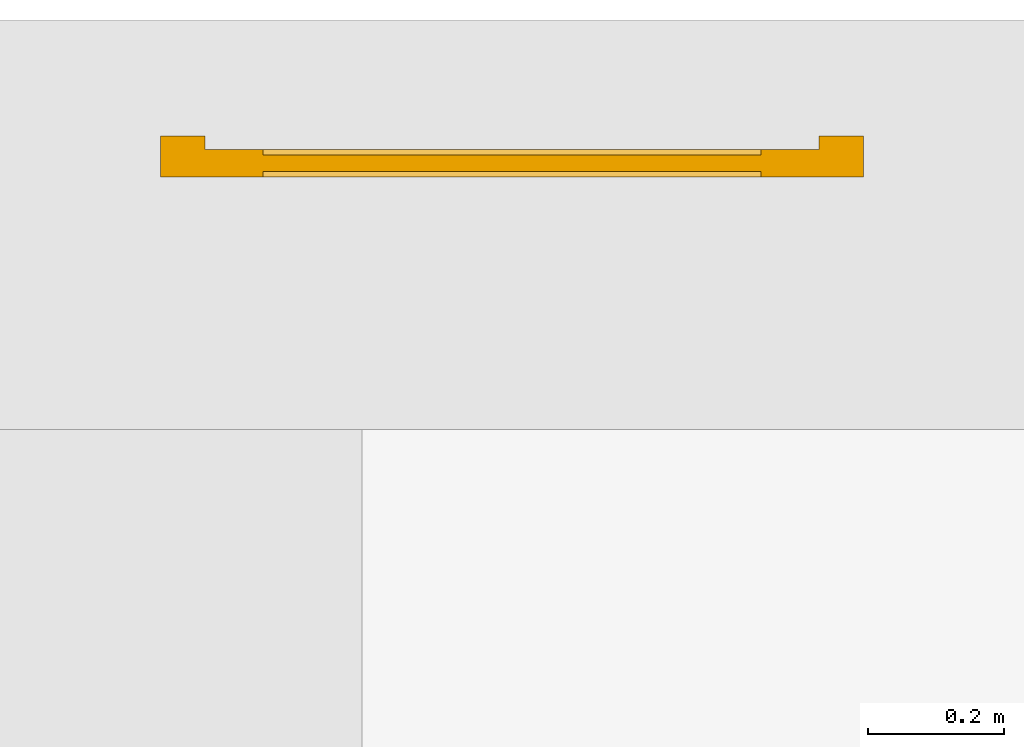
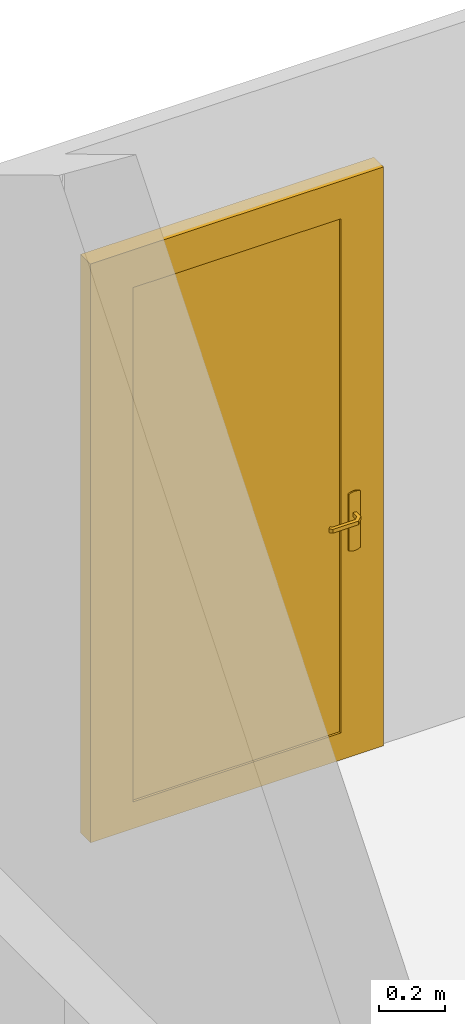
# One storey, part 2 of 6: 1 door.
"""IFC2X3 building model written with IfcOpenShell, lengths in millimetres."""

from ifc_helpers import new_model, entity, si_unit, converted_unit, direction, origin, origin_with_axes, place, context, project, spatial, faceted_brep, element, save


model = new_model("IFC2X3")

# Units and contexts
model_context = context("Model", 3, precision=1e-05, world=origin(), true_north=direction((0.0, 1.0, 0.0)))
ifc_project = project(units=[si_unit("LENGTHUNIT", "METRE", prefix="MILLI"), si_unit("AREAUNIT", "SQUARE_METRE"), si_unit("VOLUMEUNIT", "CUBIC_METRE"), converted_unit("PLANEANGLEUNIT", "DEGREE", entity("IfcPlaneAngleMeasure", 0.01745), si_unit("PLANEANGLEUNIT", "RADIAN"), dimensions=[0, 0, 0, 0, 0, 0, 0]), si_unit("SOLIDANGLEUNIT", "STERADIAN"), si_unit("MASSUNIT", "GRAM"), si_unit("TIMEUNIT", "SECOND"), si_unit("THERMODYNAMICTEMPERATUREUNIT", "DEGREE_CELSIUS"), si_unit("LUMINOUSINTENSITYUNIT", "LUMEN")], contexts=[model_context])

# Site, building, storey
site_placement = place(None, origin_with_axes())
site = spatial("IfcSite", under=ifc_project, at=site_placement, Name="Default Site", CompositionType="ELEMENT")
building_placement = place(site_placement, origin_with_axes())
building = spatial("IfcBuilding", under=site, at=building_placement, Name="Default Building", CompositionType="ELEMENT")
storey_placement = place(building_placement, origin_with_axes())
storey = spatial("IfcBuildingStorey", under=building, at=storey_placement, Name="soubassement", CompositionType="ELEMENT", Elevation=0.0)

# Door
door_placement = place(storey_placement, origin_with_axes())
element("IfcDoor", 1, at=door_placement, inside=storey, Name="IfcDoor - FR_PVC Panneau Plein:93 x 210 - (90)", context=model_context, shape_type="Brep", body=[
    faceted_brep([(-3130.064946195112, -14171.58332305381, 2010.000002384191), (-2400.064927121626, -14163.58332337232, 2010.000002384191), (-2400.064927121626, -14171.58332305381, 2010.000002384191), (-3130.064946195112, -14163.58332337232, 2010.000002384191), (-3130.064946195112, -14171.58332305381, 99.99997615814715), (-3130.064946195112, -14163.58332337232, 99.99997615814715), (-2400.064927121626, -14171.58332305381, 99.99997615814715), (-2400.064927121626, -14163.58332337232, 99.99997615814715), (-2400.064927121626, -14195.58332302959, 2010.000002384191), (-3130.064946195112, -14203.58332247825, 2010.000002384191), (-3130.064946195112, -14195.58332302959, 2010.000002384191), (-2400.064927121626, -14203.58332247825, 2010.000002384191), (-2400.064927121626, -14195.58332302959, 99.99997615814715), (-2400.064927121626, -14203.58332247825, 99.99997615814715), (-3130.064946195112, -14195.58332302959, 99.99997615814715), (-3130.064946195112, -14203.58332247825, 99.99997615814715), (-2300.064933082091, -14203.58332247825, 2099.999976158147), (-3230.064940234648, -14163.58332337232, 2099.999976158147), (-3230.064940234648, -14203.58332247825, 2099.999976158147), (-2300.064933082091, -14163.58332337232, 2099.999976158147), (-3230.064940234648, -14163.58332337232, -4.768371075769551e-05), (-3230.064940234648, -14203.58332247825, -4.768371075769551e-05), (-2300.064933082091, -14163.58332337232, -4.768371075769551e-05), (-2300.064933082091, -14203.58332247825, -4.768371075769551e-05), (-2315.064948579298, -14143.58332381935, 2084.999990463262), (-3215.06492473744, -14163.58332337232, 2084.999990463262), (-3215.06492473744, -14143.58332381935, 2084.999990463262), (-2315.064948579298, -14163.58332337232, 2084.999990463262), (-2250.064950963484, -14143.58332381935, 2150.000047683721), (-3280.064922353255, -14203.58332247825, 2150.000047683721), (-2250.064950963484, -14203.58332247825, 2150.000047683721), (-3280.064922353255, -14143.58332381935, 2150.000047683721), (-3215.06492473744, -14163.58332337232, -4.768371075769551e-05), (-3215.06492473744, -14143.58332381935, -4.768371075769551e-05), (-3280.064922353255, -14203.58332247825, -4.768371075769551e-05), (-3280.064922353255, -14143.58332381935, -4.768371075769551e-05), (-2250.064950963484, -14203.58332247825, -4.768371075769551e-05), (-2315.064948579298, -14163.58332337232, -4.768371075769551e-05), (-2315.064948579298, -14143.58332381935, -4.768371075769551e-05), (-2250.064950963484, -14143.58332381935, -4.768371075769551e-05), (-2335.064938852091, -14203.58332263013, 979.9999967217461), (-2335.064938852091, -14208.5833234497, 770.000003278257), (-2335.064938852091, -14203.58332263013, 770.000003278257), (-2335.064938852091, -14208.5833234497, 979.9999967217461), (-2344.712174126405, -14208.5833234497, 983.9960187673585), (-2344.712174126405, -14203.58332263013, 983.9960187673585), (-2355.064938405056, -14203.58332263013, 985.3589832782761), (-2355.064938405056, -14208.5833234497, 985.3589832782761), (-2365.417698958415, -14203.58332263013, 983.9960187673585), (-2365.417698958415, -14208.5833234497, 983.9960187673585), (-2375.064936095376, -14203.58332263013, 979.9999967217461), (-2375.064936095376, -14208.5833234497, 979.9999967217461), (-2375.064936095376, -14203.58332263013, 770.000003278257), (-2375.064936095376, -14208.5833234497, 770.000003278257), (-2365.417698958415, -14208.5833234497, 766.0039812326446), (-2365.417698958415, -14203.58332263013, 766.0039812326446), (-2355.064938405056, -14203.58332263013, 764.6410167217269), (-2355.064938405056, -14208.5833234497, 764.6410167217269), (-2344.712174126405, -14203.58332263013, 766.0039812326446), (-2344.712174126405, -14208.5833234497, 766.0039812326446), (-2375.064936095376, -14158.58332270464, 770.000003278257), (-2375.064936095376, -14163.5833235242, 979.9999967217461), (-2375.064936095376, -14158.58332270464, 979.9999967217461), (-2375.064936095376, -14163.5833235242, 770.000003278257), (-2365.417698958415, -14163.5833235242, 766.0039812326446), (-2365.417698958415, -14158.58332270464, 766.0039812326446), (-2355.064938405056, -14158.58332270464, 764.6410167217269), (-2355.064938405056, -14163.5833235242, 764.6410167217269), (-2344.712174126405, -14158.58332270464, 766.0039812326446), (-2344.712174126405, -14163.5833235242, 766.0039812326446), (-2335.064938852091, -14158.58332270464, 770.000003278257), (-2335.064938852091, -14163.5833235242, 770.000003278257), (-2335.064938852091, -14158.58332270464, 979.9999967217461), (-2335.064938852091, -14163.5833235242, 979.9999967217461), (-2344.712174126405, -14163.5833235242, 983.9960187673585), (-2344.712174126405, -14158.58332270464, 983.9960187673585), (-2355.064938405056, -14158.58332270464, 985.3589832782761), (-2355.064938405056, -14163.5833235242, 985.3589832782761), (-2365.417698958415, -14158.58332270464, 983.9960187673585), (-2365.417698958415, -14163.5833235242, 983.9960187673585), (-2466.397284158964, -14245.78305722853, 907.0000015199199), (-2457.56886024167, -14254.61148487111, 892.9999992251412), (-2457.56886024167, -14254.61148487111, 907.0000015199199), (-2466.397284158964, -14245.78305722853, 892.9999992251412), (-2455.922483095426, -14250.63677893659, 892.219558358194), (-2463.586746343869, -14242.97251941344, 892.219558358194), (-2452.598294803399, -14242.61148290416, 892.9999992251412), (-2460.722541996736, -14240.1083150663, 892.219558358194), (-2457.912004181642, -14237.29777352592, 892.9999992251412), (-2454.244671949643, -14246.58618883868, 892.219558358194), (-2452.598294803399, -14242.61148290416, 907.0000015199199), (-2457.912004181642, -14237.29777352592, 907.0000015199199), (-2460.722541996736, -14240.1083150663, 907.7804423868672), (-2454.244671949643, -14246.58618883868, 907.7804423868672), (-2455.922483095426, -14250.63677893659, 907.7804423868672), (-2463.586746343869, -14242.97251941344, 907.7804423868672), (-2367.44214836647, -14254.61148487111, 892.9999992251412), (-2367.44214836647, -14254.61148487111, 907.0000015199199), (-2417.638360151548, -14254.61148487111, 892.9999992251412), (-2412.505502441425, -14248.76612441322, 892.1218849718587), (-2369.088521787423, -14250.63677893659, 892.219558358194), (-2370.766334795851, -14246.58618883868, 892.219558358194), (-2412.50550057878, -14242.61148290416, 892.9999992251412), (-2372.41271007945, -14242.61148290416, 892.9999992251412), (-2412.505502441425, -14242.61148290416, 907.0000015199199), (-2372.41271007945, -14242.61148290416, 907.0000015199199), (-2412.505502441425, -14248.76612441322, 907.8781157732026), (-2370.766334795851, -14246.58618883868, 907.7804423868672), (-2369.088521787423, -14250.63677893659, 907.7804423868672), (-2407.372634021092, -14254.61148487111, 907.0000015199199), (-2349.064937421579, -14236.23427392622, 892.9999992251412), (-2349.064937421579, -14236.23427392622, 907.0000015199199), (-2353.039639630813, -14234.58790050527, 892.219558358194), (-2361.064935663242, -14231.26371221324, 892.9999992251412), (-2357.090233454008, -14232.9100856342, 892.219558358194), (-2361.064935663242, -14231.26371221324, 907.0000015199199), (-2357.090233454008, -14232.9100856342, 907.7804423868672), (-2353.039639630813, -14234.58790050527, 907.7804423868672), (-2349.064937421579, -14208.5833234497, 892.9999992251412), (-2349.064937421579, -14208.5833234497, 907.0000015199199), (-2353.039639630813, -14208.5833234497, 892.219558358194), (-2357.090233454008, -14208.5833234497, 892.219558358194), (-2361.064935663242, -14208.5833234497, 892.9999992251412), (-2361.064935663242, -14208.5833234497, 907.0000015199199), (-2357.090233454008, -14208.5833234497, 907.7804423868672), (-2353.039639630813, -14208.5833234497, 907.7804423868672), (-2452.625437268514, -14124.61283819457, 892.9999992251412), (-2460.74968446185, -14127.11600603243, 892.219558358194), (-2454.271814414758, -14120.63813226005, 892.219558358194), (-2457.939146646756, -14129.92654757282, 892.9999992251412), (-2455.94962556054, -14116.58754216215, 892.219558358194), (-2466.424426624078, -14121.4412638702, 892.9999992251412), (-2457.596002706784, -14112.61283622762, 892.9999992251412), (-2463.613888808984, -14124.2518016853, 892.219558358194), (-2466.424426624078, -14121.4412638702, 907.0000015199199), (-2457.596002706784, -14112.61283622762, 907.0000015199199), (-2455.94962556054, -14116.58754216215, 907.7804423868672), (-2463.613888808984, -14124.2518016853, 907.7804423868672), (-2452.625437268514, -14124.61283819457, 907.0000015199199), (-2460.74968446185, -14127.11600603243, 907.7804423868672), (-2457.939146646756, -14129.92654757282, 907.0000015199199), (-2454.271814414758, -14120.63813226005, 907.7804423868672), (-2412.587828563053, -14118.45839785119, 892.1218831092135), (-2412.587828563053, -14124.61283819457, 892.9999992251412), (-2370.903842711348, -14120.63813226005, 892.219558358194), (-2372.550217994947, -14124.61283819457, 892.9999992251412), (-2369.226029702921, -14116.58754216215, 892.219558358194), (-2407.510145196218, -14112.61283622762, 892.9999992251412), (-2367.579656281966, -14112.61283622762, 892.9999992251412), (-2417.665513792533, -14112.61283622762, 907.0000015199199), (-2367.579656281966, -14112.61283622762, 907.0000015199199), (-2412.587828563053, -14118.45839785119, 907.8781157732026), (-2369.226029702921, -14116.58754216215, 907.7804423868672), (-2370.903842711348, -14120.63813226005, 907.7804423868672), (-2412.587828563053, -14124.61283819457, 907.0000015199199), (-2372.550217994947, -14124.61283819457, 907.0000015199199), (-2357.090233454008, -14134.45174338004, 892.219558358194), (-2361.064935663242, -14136.09811680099, 892.9999992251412), (-2349.064937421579, -14131.12755508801, 892.9999992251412), (-2353.039639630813, -14132.77393223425, 892.219558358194), (-2349.064937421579, -14131.12755508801, 907.0000015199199), (-2353.039639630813, -14132.77393223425, 907.7804423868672), (-2361.064935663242, -14136.09811680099, 907.0000015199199), (-2357.090233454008, -14134.45174338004, 907.7804423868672), (-2357.090233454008, -14158.58332270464, 892.219558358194), (-2361.064935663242, -14158.58332270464, 892.9999992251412), (-2353.039639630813, -14158.58332270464, 892.219558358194), (-2349.064937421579, -14158.58332270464, 892.9999992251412), (-2349.064937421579, -14158.58332270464, 907.0000015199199), (-2353.039639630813, -14158.58332270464, 907.7804423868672), (-2357.090233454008, -14158.58332270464, 907.7804423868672), (-2361.064935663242, -14158.58332270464, 907.0000015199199)], [[[0, 1, 2]], [[0, 3, 1]], [[4, 3, 0]], [[4, 5, 3]], [[6, 5, 4]], [[6, 7, 5]], [[2, 7, 6]], [[2, 1, 7]], [[2, 4, 0]], [[2, 6, 4]], [[8, 9, 10]], [[8, 11, 9]], [[12, 11, 8]], [[12, 13, 11]], [[14, 13, 12]], [[14, 15, 13]], [[10, 15, 14]], [[10, 9, 15]], [[10, 12, 8]], [[10, 14, 12]], [[16, 17, 18]], [[16, 19, 17]], [[18, 20, 21]], [[18, 17, 20]], [[21, 22, 23]], [[21, 20, 22]], [[20, 5, 22]], [[20, 3, 5]], [[3, 17, 1]], [[17, 3, 20]], [[7, 22, 5]], [[1, 22, 7]], [[1, 19, 22]], [[19, 1, 17]], [[21, 9, 18]], [[21, 15, 9]], [[21, 13, 15]], [[13, 21, 23]], [[11, 18, 9]], [[23, 11, 13]], [[11, 16, 18]], [[16, 11, 23]], [[19, 18, 17]], [[19, 16, 18]], [[24, 25, 26]], [[24, 27, 25]], [[28, 29, 30]], [[28, 31, 29]], [[17, 21, 20]], [[17, 18, 21]], [[26, 32, 33]], [[26, 25, 32]], [[34, 20, 21]], [[35, 20, 34]], [[35, 32, 20]], [[32, 35, 33]], [[35, 29, 31]], [[35, 34, 29]], [[29, 18, 30]], [[34, 18, 29]], [[18, 34, 21]], [[16, 30, 18]], [[23, 30, 16]], [[30, 23, 36]], [[23, 19, 22]], [[23, 16, 19]], [[17, 25, 19]], [[20, 25, 17]], [[25, 20, 32]], [[27, 19, 25]], [[37, 19, 27]], [[19, 37, 22]], [[37, 24, 38]], [[37, 27, 24]], [[28, 24, 31]], [[39, 24, 28]], [[24, 39, 38]], [[26, 31, 24]], [[33, 31, 26]], [[31, 33, 35]], [[39, 30, 36]], [[39, 28, 30]], [[38, 22, 37]], [[39, 22, 38]], [[39, 23, 22]], [[23, 39, 36]], [[40, 41, 42]], [[40, 43, 41]], [[44, 40, 45]], [[44, 43, 40]], [[44, 46, 47]], [[44, 45, 46]], [[47, 48, 49]], [[47, 46, 48]], [[49, 50, 51]], [[49, 48, 50]], [[52, 51, 50]], [[52, 53, 51]], [[54, 52, 55]], [[54, 53, 52]], [[54, 56, 57]], [[54, 55, 56]], [[57, 58, 59]], [[57, 56, 58]], [[59, 42, 41]], [[59, 58, 42]], [[55, 58, 56]], [[52, 58, 55]], [[52, 42, 58]], [[50, 42, 52]], [[50, 40, 42]], [[48, 40, 50]], [[48, 45, 40]], [[45, 48, 46]], [[47, 43, 44]], [[47, 41, 43]], [[49, 41, 47]], [[49, 59, 41]], [[51, 59, 49]], [[51, 57, 59]], [[51, 54, 57]], [[54, 51, 53]], [[60, 61, 62]], [[60, 63, 61]], [[64, 60, 65]], [[64, 63, 60]], [[64, 66, 67]], [[64, 65, 66]], [[67, 68, 69]], [[67, 66, 68]], [[69, 70, 71]], [[69, 68, 70]], [[72, 71, 70]], [[72, 73, 71]], [[74, 72, 75]], [[74, 73, 72]], [[74, 76, 77]], [[74, 75, 76]], [[77, 78, 79]], [[77, 76, 78]], [[79, 62, 61]], [[79, 78, 62]], [[66, 70, 68]], [[66, 72, 70]], [[65, 72, 66]], [[65, 75, 72]], [[60, 75, 65]], [[60, 76, 75]], [[60, 78, 76]], [[78, 60, 62]], [[79, 74, 77]], [[61, 74, 79]], [[61, 73, 74]], [[61, 71, 73]], [[63, 71, 61]], [[63, 69, 71]], [[64, 69, 63]], [[69, 64, 67]], [[80, 81, 82]], [[80, 83, 81]], [[84, 83, 85]], [[84, 81, 83]], [[86, 87, 88]], [[86, 89, 87]], [[88, 90, 86]], [[88, 91, 90]], [[90, 92, 93]], [[90, 91, 92]], [[94, 80, 82]], [[94, 95, 80]], [[80, 85, 83]], [[95, 85, 80]], [[95, 87, 85]], [[92, 87, 95]], [[92, 88, 87]], [[88, 92, 91]], [[82, 96, 97]], [[82, 98, 96]], [[98, 82, 81]], [[84, 99, 98]], [[100, 99, 101]], [[102, 89, 86]], [[103, 101, 102]], [[99, 84, 89]], [[89, 102, 99]], [[99, 100, 98]], [[98, 100, 96]], [[98, 81, 84]], [[99, 102, 101]], [[104, 86, 90]], [[104, 102, 86]], [[105, 102, 104]], [[102, 105, 103]], [[94, 106, 93]], [[90, 93, 104]], [[104, 107, 105]], [[106, 104, 93]], [[106, 108, 107]], [[107, 104, 106]], [[109, 94, 82]], [[109, 97, 108]], [[94, 109, 106]], [[108, 106, 109]], [[97, 110, 111]], [[97, 96, 110]], [[112, 96, 100]], [[112, 110, 96]], [[113, 101, 103]], [[113, 114, 101]], [[103, 115, 113]], [[103, 105, 115]], [[116, 105, 107]], [[116, 115, 105]], [[111, 108, 97]], [[111, 117, 108]], [[111, 118, 119]], [[111, 110, 118]], [[118, 112, 120]], [[118, 110, 112]], [[89, 85, 87]], [[89, 84, 85]], [[112, 114, 120]], [[100, 114, 112]], [[114, 100, 101]], [[120, 114, 121]], [[121, 113, 122]], [[121, 114, 113]], [[113, 123, 122]], [[113, 115, 123]], [[124, 115, 116]], [[124, 123, 115]], [[94, 92, 95]], [[94, 93, 92]], [[108, 116, 107]], [[116, 108, 117]], [[117, 124, 116]], [[124, 117, 125]], [[119, 117, 111]], [[119, 125, 117]], [[118, 125, 119]], [[120, 125, 118]], [[120, 124, 125]], [[121, 124, 120]], [[122, 124, 121]], [[124, 122, 123]], [[126, 127, 128]], [[126, 129, 127]], [[130, 131, 132]], [[130, 133, 131]], [[134, 132, 131]], [[134, 135, 132]], [[136, 134, 137]], [[136, 135, 134]], [[138, 139, 140]], [[138, 141, 139]], [[129, 138, 140]], [[129, 126, 138]], [[131, 137, 134]], [[133, 137, 131]], [[133, 139, 137]], [[127, 139, 133]], [[129, 139, 127]], [[139, 129, 140]], [[130, 142, 128]], [[126, 128, 143]], [[143, 144, 145]], [[142, 143, 128]], [[142, 146, 144]], [[144, 143, 142]], [[147, 130, 132]], [[147, 148, 146]], [[130, 147, 142]], [[146, 142, 147]], [[135, 148, 132]], [[149, 148, 135]], [[148, 149, 150]], [[136, 151, 149]], [[152, 151, 153]], [[154, 141, 138]], [[155, 153, 154]], [[151, 136, 141]], [[141, 154, 151]], [[151, 152, 149]], [[149, 152, 150]], [[149, 135, 136]], [[151, 154, 153]], [[126, 155, 138]], [[143, 155, 126]], [[155, 143, 145]], [[156, 145, 144]], [[156, 157, 145]], [[158, 146, 148]], [[158, 159, 146]], [[148, 160, 158]], [[148, 150, 160]], [[160, 152, 161]], [[160, 150, 152]], [[162, 153, 155]], [[162, 163, 153]], [[145, 162, 155]], [[145, 157, 162]], [[164, 157, 156]], [[164, 165, 157]], [[130, 127, 133]], [[130, 128, 127]], [[146, 156, 144]], [[159, 156, 146]], [[159, 164, 156]], [[164, 159, 166]], [[167, 159, 158]], [[167, 166, 159]], [[160, 167, 158]], [[160, 168, 167]], [[168, 161, 169]], [[168, 160, 161]], [[141, 137, 139]], [[141, 136, 137]], [[152, 163, 161]], [[163, 152, 153]], [[163, 169, 161]], [[169, 163, 170]], [[170, 162, 171]], [[170, 163, 162]], [[162, 165, 171]], [[162, 157, 165]], [[164, 171, 165]], [[164, 170, 171]], [[166, 170, 164]], [[166, 169, 170]], [[167, 169, 166]], [[169, 167, 168]]]),
])

save(model, "model.ifc")
